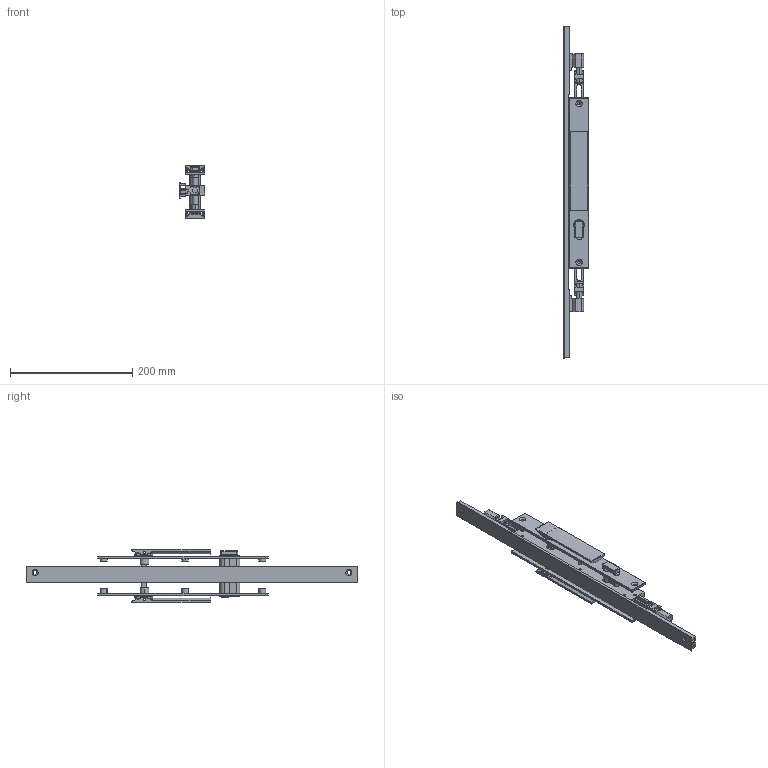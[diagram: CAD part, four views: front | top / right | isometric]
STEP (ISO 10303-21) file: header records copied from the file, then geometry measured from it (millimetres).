
FILE_DESCRIPTION (( 'STEP AP214' ), '1' );
FILE_NAME ('TPL-W-512-L 19July2024.STEP', '2024-12-05T00:06:09', ( '' ), ( '' ), 'SwSTEP 2.0', 'SolidWorks 2023', '' );
FILE_SCHEMA (( 'AUTOMOTIVE_DESIGN' ));
Length unit declared in the file: millimetre
Products named in the file (21): Copy of Handle sub-assembly - simplified^Copy of TPGen2 handle keyed external - simplified_TPL-W-012 19July2024; Copy of Handle sub-assembly - simplified^Copy of TPGen2 handle keyed internal - simplified_TPL-W-012 19July2024; Copy of TPLGen2 lock body keyed assembly^TPL-W-012 19July2024_Bolts extended; Copy (2) of COV-112-B Cover B suit TPLGen2 standard range^TPL-W-012 19July2024_2870mm; Copy of Copy of Copy of LKC-531 Lock twinpoint transmission rod wood system^TPL-W-012 19July2024_Standard Range 2891.7mm; Copy of LKC-547 Spindle - simplified^Copy of TPGen2 handle keyed external - simplified_TPL-W-012 19July2024_G - 24mm; Copy of COV-112-A Cover A suit TPLGen2 standard range^TPL-W-012 19July2024_2870mm; Copy of Adapter CnE - simplfied^TPL-W-012 19July2024_26mm backset; Copy of TPGen2 handle keyed internal - simplified^TPL-W-012 19July2024_Vertical; Copy of Escutcheon plate keyed external 280mm - simplified^Copy of TPGen2 handle keyed external - simplified_TPL-W-012 19July2024; TPLGen2 push rod - simplified^Copy of TPLGen2 lock body keyed assembly_TPL-W-012 19July2024_Female thread M10; Copy of TPLGen2 lock body keyed^Copy of TPLGen2 lock body keyed assembly_TPL-W-012 19July2024; Copy of TPL-020 Lock cylinder suit 2.25 inch panel^TPL-W-012 19July2024; Bolt.step; TPL-W-512-L 19July2024; Copy of Copy of LKC-531 Lock twinpoint transmission rod wood system^TPL-W-012 19July2024_Standard Range 2891.7mm; Copy of Escutcheon plate keyed internal 280mm - simplified^Copy of TPGen2 handle keyed internal - simplified_TPL-W-012 19July2024; Copy of TPGen2 handle keyed external - simplified^TPL-W-012 19July2024_Vertical; Copy of Adapter DnF - simplfied^TPL-W-012 19July2024_26mm backset; Copy of LKC-547 Spindle - simplified^Copy of TPGen2 handle keyed internal - simplified_TPL-W-012 19July2024_E - 19mm; Copy of COV-112-C Cover C TPLGen2 Lock body^TPL-W-012 19July2024
Assembly tree (18 placements, depth 3):
  Copy (2) of COV-112-B Cover B suit TPLGen2 standard range^TPL-W-012 19July2024_2870mm
  Copy of COV-112-A Cover A suit TPLGen2 standard range^TPL-W-012 19July2024_2870mm
  Bolt.step
  TPL-W-512-L 19July2024
    Copy of TPLGen2 lock body keyed assembly^TPL-W-012 19July2024_Bolts extended
      Copy of TPLGen2 lock body keyed^Copy of TPLGen2 lock body keyed assembly_TPL-W-012 19July2024
      TPLGen2 push rod - simplified^Copy of TPLGen2 lock body keyed assembly_TPL-W-012 19July2024_Female thread M10  x2
    Copy of TPGen2 handle keyed internal - simplified^TPL-W-012 19July2024_Vertical
      Copy of Escutcheon plate keyed internal 280mm - simplified^Copy of TPGen2 handle keyed internal - simplified_TPL-W-012 19July2024
      Copy of Handle sub-assembly - simplified^Copy of TPGen2 handle keyed internal - simplified_TPL-W-012 19July2024
      Copy of LKC-547 Spindle - simplified^Copy of TPGen2 handle keyed internal - simplified_TPL-W-012 19July2024_E - 19mm
    Copy of TPGen2 handle keyed external - simplified^TPL-W-012 19July2024_Vertical
      Copy of Escutcheon plate keyed external 280mm - simplified^Copy of TPGen2 handle keyed external - simplified_TPL-W-012 19July2024
      Copy of Handle sub-assembly - simplified^Copy of TPGen2 handle keyed external - simplified_TPL-W-012 19July2024
      Copy of LKC-547 Spindle - simplified^Copy of TPGen2 handle keyed external - simplified_TPL-W-012 19July2024_G - 24mm
    Copy of TPL-020 Lock cylinder suit 2.25 inch panel^TPL-W-012 19July2024
    Copy of COV-112-C Cover C TPLGen2 Lock body^TPL-W-012 19July2024
    Copy of Copy of LKC-531 Lock twinpoint transmission rod wood system^TPL-W-012 19July2024_Standard Range 2891.7mm
    Copy of Copy of Copy of LKC-531 Lock twinpoint transmission rod wood system^TPL-W-012 19July2024_Standard Range 2891.7mm
    Copy of Adapter DnF - simplfied^TPL-W-012 19July2024_26mm backset
    Copy of Adapter CnE - simplfied^TPL-W-012 19July2024_26mm backset
Bounding box: 42 x 544 x 86.29 mm (x, y, z)
Volume: 361193.6 mm3; surface area: 177348.5 mm2
Topology: 17 solids, 20 shells, 1089 faces, 2762 edges, 1724 vertices
Faces by surface type: cylinder 451, plane 422, bspline 89, torus 68, cone 35, sphere 24
Entity records: 33341 total; most frequent: CARTESIAN_POINT 7266, DIRECTION 5466, ORIENTED_EDGE 5268, EDGE_CURVE 2634, AXIS2_PLACEMENT_3D 2048, VERTEX_POINT 1664, VECTOR 1370, LINE 1370
